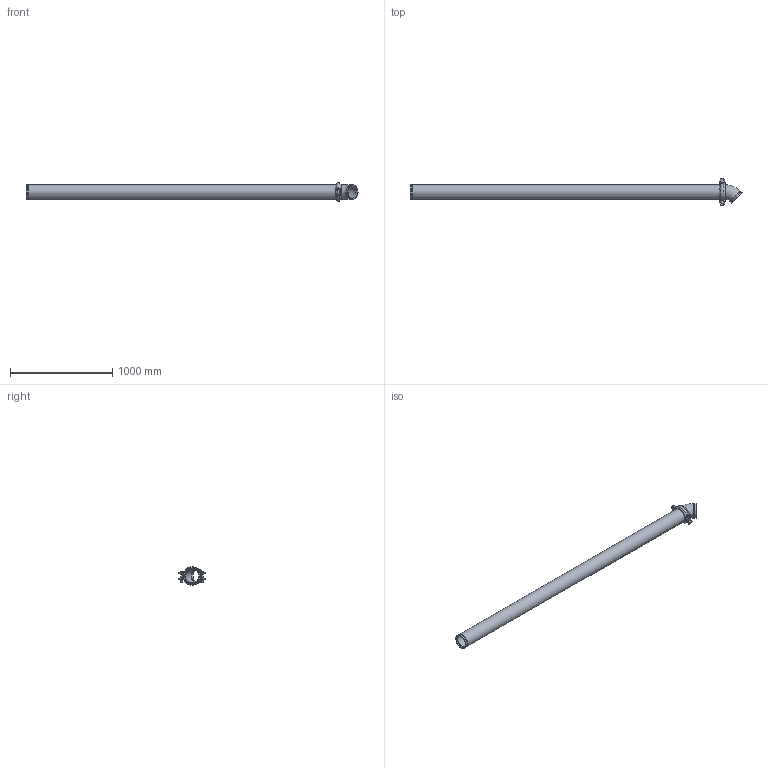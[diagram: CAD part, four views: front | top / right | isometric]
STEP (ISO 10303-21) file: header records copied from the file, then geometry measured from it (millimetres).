
FILE_DESCRIPTION(/* description */ ('VIC LONG RUN FITTING No R14 (OGS)','CAx-IF Rec.Pracs.---Representation and Presentation of Product Manufacturing Information (PMI)---4.0---2014-10-13'),/* implementation_level */ '2;1');
FILE_NAME(/* name */ 'C:\Users\Vjadhav\AppData\Roaming\Autodesk\ApplicationPlugins\Back Up\Victaulic_IPS_Long Run Fittings_No R14 (OGS)\Victaulic_IPS_Long Run Fittings_No R14 (OGS)_5 (125).stp',/* time_stamp */ '2020-10-13T18:28:46+06:00',/* author */ ('Vjadhav'),/* organization */ ('Victaulic'),/* preprocessor_version */ 'ST-DEVELOPER v17.2',/* originating_system */ 'Autodesk Inventor 2019',/* authorisation */ '');
FILE_SCHEMA (('AP242_MANAGED_MODEL_BASED_3D_ENGINEERING_MIM_LF { 1 0 10303 442 1 1 4 }'));
Length unit declared in the file: inch
Products named in the file (4): R14-05.0; 011-05.0; 107N-05.0; Pipe_R13-05.0
Assembly tree (3 placements, depth 2):
  R14-05.0
    011-05.0
    107N-05.0
    Pipe_R13-05.0
Bounding box: 3242.69 x 260.35 x 180.89 mm (x, y, z)
Volume: 9472477.5 mm3; surface area: 2839025.9 mm2
Topology: 3 solids, 3 shells, 151 faces, 393 edges, 264 vertices
Faces by surface type: plane 62, cylinder 59, bspline 16, torus 8, cone 4, sphere 2
Full cylindrical faces by diameter (mm): 15.875 x4, 27.381 x2, 128.194 x3, 128.6 x1, 137.033 x4, 141.3 x7
Entity records: 5620 total; most frequent: CARTESIAN_POINT 1489, DIRECTION 833, ORIENTED_EDGE 786, EDGE_CURVE 393, AXIS2_PLACEMENT_3D 330, VERTEX_POINT 264, EDGE_LOOP 177, LINE 173
